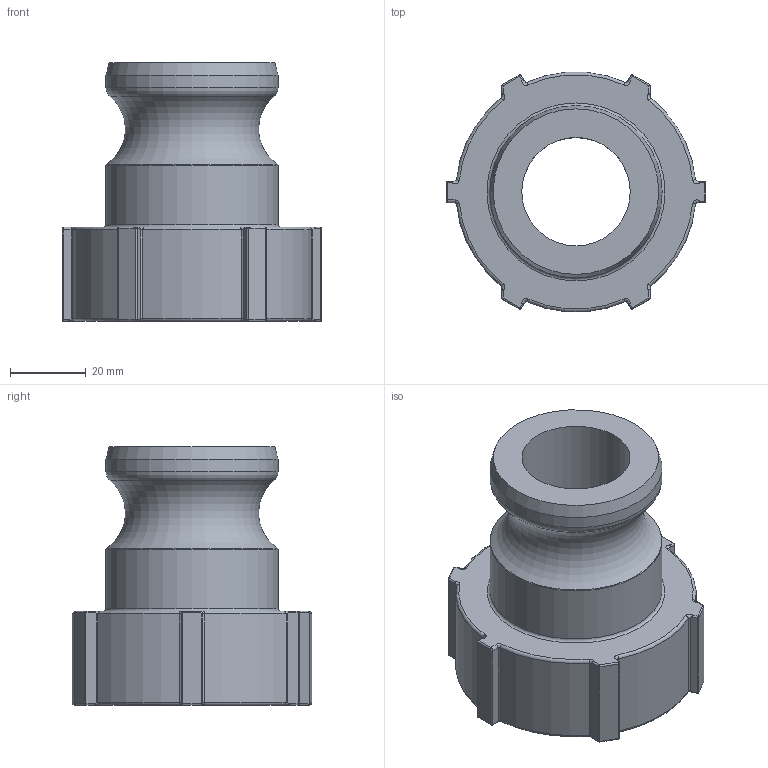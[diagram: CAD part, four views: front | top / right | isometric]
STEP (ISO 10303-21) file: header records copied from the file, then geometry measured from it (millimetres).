
FILE_DESCRIPTION(/* description */ ('Alibre Inc.'),/* implementation_level */ '2;1');
FILE_NAME(/* name */ 'export0',/* time_stamp */ '2015-12-29T12:55:51-05:00',/* author */ (''),/* organization */ (''),/* preprocessor_version */ 'ST-DEVELOPER v14',/* originating_system */ 'Alibre',/* authorisation */ '');
FILE_SCHEMA (('CONFIG_CONTROL_DESIGN'));
Length unit declared in the file: centimetre
Products named in the file (1): ID_1
Bounding box: 68.58 x 63.27 x 68.33 mm (x, y, z)
Volume: 83844.3 mm3; surface area: 25438.5 mm2
Topology: 1 solids, 1 shells, 189 faces, 474 edges, 267 vertices
Faces by surface type: cylinder 70, torus 40, cone 30, plane 23, sphere 23, bspline 3
Full cylindrical faces by diameter (mm): 28.651 x1, 42.418 x1, 45.517 x2
Entity records: 31245 total; most frequent: CARTESIAN_POINT 27009, ORIENTED_EDGE 880, DIRECTION 823, EDGE_CURVE 440, AXIS2_PLACEMENT_3D 370, VERTEX_POINT 265, EDGE_LOOP 203, FACE_BOUND 203
